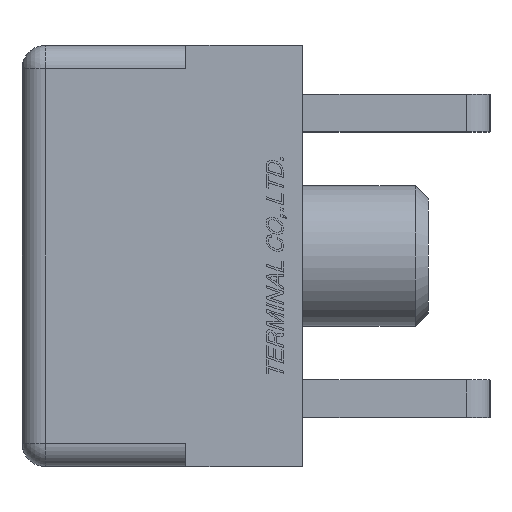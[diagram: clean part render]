
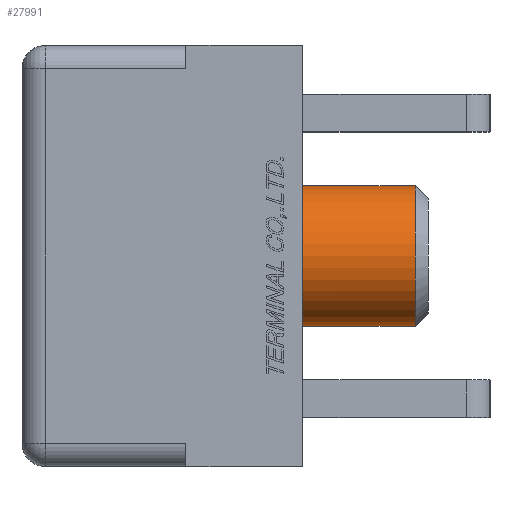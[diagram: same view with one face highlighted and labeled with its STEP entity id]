
A CAD part, left-side view. The second image highlights one B-rep face of the part: STEP entity #27991.
In plain terms, the highlighted cylindrical face has radius 1.5 mm (diameter 3 mm), a full revolution.
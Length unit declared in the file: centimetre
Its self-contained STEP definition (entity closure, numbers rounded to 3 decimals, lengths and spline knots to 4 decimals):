
#8690=VERTEX_POINT('',#35262);
#8701=VERTEX_POINT('',#35312);
#11427=CIRCLE('',#46624,0.15);
#11429=CIRCLE('',#46640,0.15);
#11823=EDGE_CURVE('',#8690,#8690,#11427,.T.);
#11849=EDGE_CURVE('',#8701,#8701,#11429,.T.);
#16147=ORIENTED_EDGE('',*,*,#11823,.T.);
#16148=ORIENTED_EDGE('',*,*,#11849,.F.);
#24385=EDGE_LOOP('',(#16147));
#24386=EDGE_LOOP('',(#16148));
#26189=FACE_BOUND('',#24385,.T.);
#26190=FACE_BOUND('',#24386,.T.);
#27991=ADVANCED_FACE('',(#26189,#26190),#29616,.T.);
#29616=CYLINDRICAL_SURFACE('',#46639,0.15);
#29956=DIRECTION('',(0.,-1.,0.));
#29957=DIRECTION('',(0.15,0.,0.));
#29997=DIRECTION('',(0.,-1.,0.));
#29998=DIRECTION('',(0.15,0.,0.));
#29999=DIRECTION('',(0.,-1.,0.));
#30000=DIRECTION('',(-0.15,0.,0.));
#35261=CARTESIAN_POINT('',(-0.31,0.25,0.));
#35262=CARTESIAN_POINT('',(-0.16,0.25,-0.001));
#35310=CARTESIAN_POINT('',(-0.31,0.3321,0.));
#35311=CARTESIAN_POINT('',(-0.31,-0.2398,0.));
#35312=CARTESIAN_POINT('',(-0.16,-0.2398,0.));
#46624=AXIS2_PLACEMENT_3D('',#35261,#29956,#29957);
#46639=AXIS2_PLACEMENT_3D('',#35310,#29997,#29998);
#46640=AXIS2_PLACEMENT_3D('',#35311,#29999,#30000);
